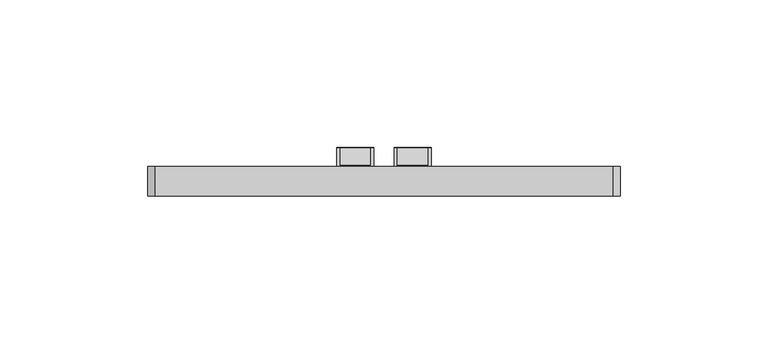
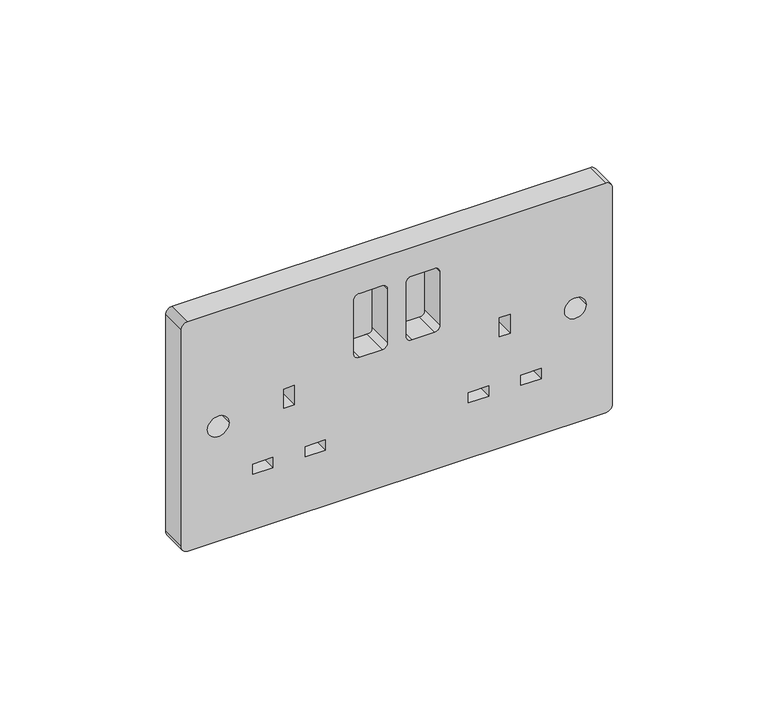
"""IFC4 building model written with IfcOpenShell, lengths in millimetres: flow terminal geometry, BIMHealth-Electrical_Double_Socket-Non_Wall_Mounted_Realistic-LOD2A-v1 : BIMHealth-Electrical_Double_Socket-Non_Wall_Mounted_Realistic-LOD2A-v1."""

from ifc_helpers import new_model, si_unit, point, frame, frame_2d, origin, place, context, project, spatial, polyline, circle_curve, trimmed, segment, composite_curve, outline, extrude, source, transform, mapped, element, save


def flow_terminal_e4480bda(model_context):
    return source(origin(), model_context, "Body", "SweptSolid", [
        extrude(outline(polyline([(0.0, -6.6069309), (0.0, 0.0), (10.2857159, 0.0), (10.2857159, -6.6069309), (0.0, -6.6069309)])), frame((-14.8926088, 15.8571543, 525.0765635), z_axis=(0.0, 0.42261826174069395, 0.9063077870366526), x_axis=(1.0, 0.0, 0.0)), (0.0, 0.0, 1.0), 1.0),
        extrude(outline(polyline([(0.0, -6.6069309), (0.0, 0.0), (10.2857159, 0.0), (10.2857159, -6.6069309), (0.0, -6.6069309)])), frame((4.5275149, 15.8571543, 525.0765635), z_axis=(0.0, 0.42261826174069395, 0.9063077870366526), x_axis=(1.0, 0.0, 0.0)), (0.0, 0.0, 1.0), 1.0),
        extrude(outline(composite_curve([segment(polyline([(10.0, 528.7685686), (16.3259043, 525.818751)]), True, "CONTINUOUS"), segment(trimmed(circle_curve(frame_2d((14.4146112, 525.1036497)), 2.0406889), [point((16.3259043, 525.818751))], [point((16.3259043, 524.3885485))], False, "CARTESIAN"), True, "CONTINUOUS"), segment(trimmed(circle_curve(frame_2d((46.7694965, 503.7685686)), 36.7694965), [point((16.3259043, 524.3885485))], [point((10.0, 503.7685686))], True, "CARTESIAN"), True, "CONTINUOUS"), segment(polyline([(10.0, 503.7685686), (10.0, 528.7685686)]), True, "CONTINUOUS")], self_intersect=False)), frame((3.4600618, 0.0, 0.0), z_axis=(1.0, 0.0, 0.0), x_axis=(0.0, 1.0, 0.0)), (0.0, 0.0, 1.0), 12.5),
        extrude(outline(composite_curve([segment(polyline([(528.7685686, 10.0), (503.7685686, 10.0)]), True, "CONTINUOUS"), segment(trimmed(circle_curve(frame_2d((503.7685686, 46.7694965)), 36.7694965), [point((503.7685686, 10.0))], [point((524.3885485, 16.3259043))], True, "CARTESIAN"), True, "CONTINUOUS"), segment(trimmed(circle_curve(frame_2d((525.1036497, 14.4146112)), 2.0406889), [point((524.3885485, 16.3259043))], [point((525.818751, 16.3259043))], False, "CARTESIAN"), True, "CONTINUOUS"), segment(polyline([(525.818751, 16.3259043), (528.7685686, 10.0)]), True, "CONTINUOUS")], self_intersect=False)), frame((-3.4600618, 0.0, 0.0), z_axis=(-1.0, 0.0, 0.0), x_axis=(0.0, 0.0, 1.0)), (0.0, 0.0, 1.0), 12.5),
        extrude(outline(composite_curve([segment(trimmed(circle_curve(frame_2d((537.5, -77.5)), 2.5), [point((540.0, -77.5))], [point((537.5, -80.0))], False, "CARTESIAN"), True, "CONTINUOUS"), segment(polyline([(537.5, -80.0), (452.5, -80.0)]), True, "CONTINUOUS"), segment(trimmed(circle_curve(frame_2d((452.5, -77.5)), 2.5), [point((452.5, -80.0))], [point((450.0, -77.5))], False, "CARTESIAN"), True, "CONTINUOUS"), segment(polyline([(450.0, -77.5), (450.0, 77.5)]), True, "CONTINUOUS"), segment(trimmed(circle_curve(frame_2d((452.5, 77.5)), 2.5), [point((450.0, 77.5))], [point((452.5, 80.0))], False, "CARTESIAN"), True, "CONTINUOUS"), segment(polyline([(452.5, 80.0), (537.5, 80.0)]), True, "CONTINUOUS"), segment(trimmed(circle_curve(frame_2d((537.5, 77.5)), 2.5), [point((537.5, 80.0))], [point((540.0, 77.5))], False, "CARTESIAN"), True, "CONTINUOUS"), segment(polyline([(540.0, 77.5), (540.0, -77.5)]), True, "CONTINUOUS")], self_intersect=False), holes=[composite_curve([segment(trimmed(circle_curve(frame_2d((495.0, 66.25)), 4.0), [point((495.0, 70.25))], [point((495.0, 62.25))], True, "CARTESIAN"), True, "CONTINUOUS"), segment(trimmed(circle_curve(frame_2d((495.0, 66.25)), 4.0), [point((495.0, 62.25))], [point((495.0, 70.25))], True, "CARTESIAN"), True, "CONTINUOUS")], self_intersect=False), composite_curve([segment(trimmed(circle_curve(frame_2d((495.0, -66.25)), 4.0), [point((495.0, -70.25))], [point((495.0, -62.25))], True, "CARTESIAN"), True, "CONTINUOUS"), segment(trimmed(circle_curve(frame_2d((495.0, -66.25)), 4.0), [point((495.0, -62.25))], [point((495.0, -70.25))], True, "CARTESIAN"), True, "CONTINUOUS")], self_intersect=False), polyline([(501.1172186, 38.0365659), (501.1172186, 42.0365659), (493.6172186, 42.0365659), (493.6172186, 38.0365659), (501.1172186, 38.0365659)]), polyline([(475.7422186, 53.5365659), (471.7422186, 53.5365659), (471.7422186, 46.0365659), (475.7422186, 46.0365659), (475.7422186, 53.5365659)]), polyline([(475.7422186, 26.5365659), (475.7422186, 34.0365659), (471.7422186, 34.0365659), (471.7422186, 26.5365659), (475.7422186, 26.5365659)]), polyline([(501.1172186, -38.0365659), (493.6172186, -38.0365659), (493.6172186, -42.0365659), (501.1172186, -42.0365659), (501.1172186, -38.0365659)]), polyline([(475.7422186, -53.5365659), (475.7422186, -46.0365659), (471.7422186, -46.0365659), (471.7422186, -53.5365659), (475.7422186, -53.5365659)]), polyline([(475.7422186, -26.5365659), (471.7422186, -26.5365659), (471.7422186, -34.0365659), (475.7422186, -34.0365659), (475.7422186, -26.5365659)]), composite_curve([segment(polyline([(528.7685686, 5.4600618), (528.7685686, 13.9600618)]), True, "CONTINUOUS"), segment(trimmed(circle_curve(frame_2d((526.7685686, 13.9600618)), 2.0), [point((528.7685686, 13.9600618))], [point((526.7685686, 15.9600618))], True, "CARTESIAN"), True, "CONTINUOUS"), segment(polyline([(526.7685686, 15.9600618), (505.7685686, 15.9600618)]), True, "CONTINUOUS"), segment(trimmed(circle_curve(frame_2d((505.7685686, 13.9600618)), 2.0), [point((505.7685686, 15.9600618))], [point((503.7685686, 13.9600618))], True, "CARTESIAN"), True, "CONTINUOUS"), segment(polyline([(503.7685686, 13.9600618), (503.7685686, 5.4600618)]), True, "CONTINUOUS"), segment(trimmed(circle_curve(frame_2d((505.7685686, 5.4600618)), 2.0), [point((503.7685686, 5.4600618))], [point((505.7685686, 3.4600618))], True, "CARTESIAN"), True, "CONTINUOUS"), segment(polyline([(505.7685686, 3.4600618), (526.7685686, 3.4600618)]), True, "CONTINUOUS"), segment(trimmed(circle_curve(frame_2d((526.7685686, 5.4600618)), 2.0), [point((526.7685686, 3.4600618))], [point((528.7685686, 5.4600618))], True, "CARTESIAN"), True, "CONTINUOUS")], self_intersect=False), composite_curve([segment(trimmed(circle_curve(frame_2d((526.7685686, -5.4600618)), 2.0), [point((528.7685686, -5.4600618))], [point((526.7685686, -3.4600618))], True, "CARTESIAN"), True, "CONTINUOUS"), segment(polyline([(526.7685686, -3.4600618), (505.7685686, -3.4600618)]), True, "CONTINUOUS"), segment(trimmed(circle_curve(frame_2d((505.7685686, -5.4600618)), 2.0), [point((505.7685686, -3.4600618))], [point((503.7685686, -5.4600618))], True, "CARTESIAN"), True, "CONTINUOUS"), segment(polyline([(503.7685686, -5.4600618), (503.7685686, -13.9600618)]), True, "CONTINUOUS"), segment(trimmed(circle_curve(frame_2d((505.7685686, -13.9600618)), 2.0), [point((503.7685686, -13.9600618))], [point((505.7685686, -15.9600618))], True, "CARTESIAN"), True, "CONTINUOUS"), segment(polyline([(505.7685686, -15.9600618), (526.7685686, -15.9600618)]), True, "CONTINUOUS"), segment(trimmed(circle_curve(frame_2d((526.7685686, -13.9600618)), 2.0), [point((526.7685686, -15.9600618))], [point((528.7685686, -13.9600618))], True, "CARTESIAN"), True, "CONTINUOUS"), segment(polyline([(528.7685686, -13.9600618), (528.7685686, -5.4600618)]), True, "CONTINUOUS")], self_intersect=False)]), frame((0.0, 0.0, 0.0), z_axis=(0.0, 1.0, 0.0), x_axis=(0.0, 0.0, 1.0)), (0.0, 0.0, 1.0), 10.0),
    ])


if __name__ == "__main__":
    model = new_model("IFC4")
    model_context = context("Model", 3, world=origin())
    ifc_project = project(units=[si_unit("LENGTHUNIT", "METRE", prefix="MILLI")], contexts=[model_context])
    site = spatial("IfcSite", under=ifc_project)
    building = spatial("IfcBuilding", under=site)
    placement = place(None, origin())
    flow_terminal_shape = flow_terminal_e4480bda(model_context)
    element("IfcFlowTerminal", 1, ObjectType="BIMHealth-Electrical_Double_Socket-Non_Wall_Mounted_Realistic-LOD2A-v1 : BIMHealth-Electrical_Double_Socket-Non_Wall_Mounted_Realistic-LOD2A-v1", at=placement, inside=building, context=model_context, shape_type="MappedRepresentation", body=[
        mapped(flow_terminal_shape, transform((0.0, 0.0, 0.0), x_axis=(1.0, 0.0, 0.0), y_axis=(0.0, 1.0, 0.0), z_axis=(0.0, 0.0, 1.0))),
    ])
    save(model, "model.ifc")
